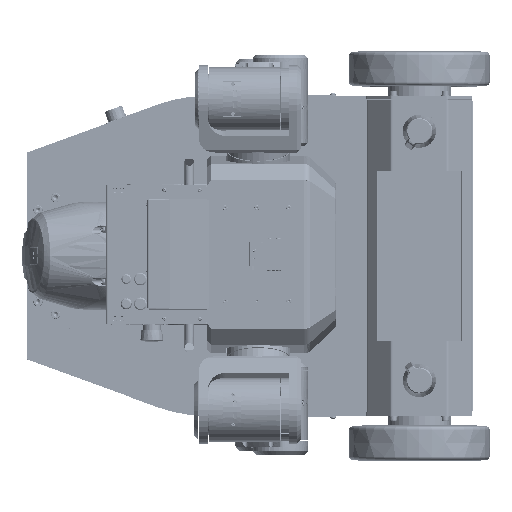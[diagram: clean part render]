
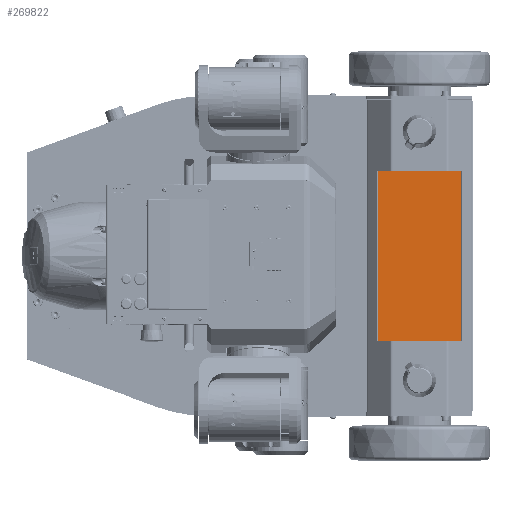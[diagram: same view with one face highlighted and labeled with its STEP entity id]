
A CAD part, top view. The second image highlights one B-rep face of the part: STEP entity #269822.
In plain terms, the highlighted planar face has unit normal (0, 0, 1).
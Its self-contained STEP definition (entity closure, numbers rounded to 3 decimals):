
#12265=PLANE('',#288789);
#22503=FACE_OUTER_BOUND('',#38327,.T.);
#38327=EDGE_LOOP('',(#182383,#182384,#182385,#182386));
#54270=LINE('',#426567,#74852);
#54271=LINE('',#426569,#74853);
#54286=LINE('',#426610,#74868);
#56246=LINE('',#439859,#76828);
#74852=VECTOR('',#315201,1.);
#74853=VECTOR('',#315204,1.);
#74868=VECTOR('',#315239,1.);
#76828=VECTOR('',#322265,1.);
#107991=VERTEX_POINT('',#426531);
#107996=VERTEX_POINT('',#426541);
#107999=VERTEX_POINT('',#426548);
#108000=VERTEX_POINT('',#426551);
#134324=EDGE_CURVE('',#107991,#107999,#54270,.T.);
#134325=EDGE_CURVE('',#107996,#108000,#54271,.T.);
#134346=EDGE_CURVE('',#108000,#107999,#54286,.T.);
#137991=EDGE_CURVE('',#107991,#107996,#56246,.T.);
#182383=ORIENTED_EDGE('',*,*,#134346,.F.);
#182384=ORIENTED_EDGE('',*,*,#134325,.F.);
#182385=ORIENTED_EDGE('',*,*,#137991,.F.);
#182386=ORIENTED_EDGE('',*,*,#134324,.T.);
#269822=ADVANCED_FACE('',(#22503),#12265,.F.);
#288789=AXIS2_PLACEMENT_3D('',#440400,#322403,#322404);
#315201=DIRECTION('',(0.,1.,0.));
#315204=DIRECTION('',(0.,1.,0.));
#315239=DIRECTION('',(1.,0.,0.));
#322265=DIRECTION('',(-1.,0.,0.));
#322403=DIRECTION('center_axis',(0.,0.,
-1.));
#322404=DIRECTION('ref_axis',(0.,-1.,0.));
#426531=CARTESIAN_POINT('',(534.149,-120.5,-89.349));
#426541=CARTESIAN_POINT('',(415.851,-120.5,-89.349));
#426548=CARTESIAN_POINT('',(534.148,120.5,-89.349));
#426551=CARTESIAN_POINT('',(415.852,120.5,-89.349));
#426567=CARTESIAN_POINT('',(534.149,-60.25,-89.349));
#426569=CARTESIAN_POINT('',(415.851,-60.25,-89.349));
#426610=CARTESIAN_POINT('',(474.999,120.5,-89.349));
#439859=CARTESIAN_POINT('',(474.999,-120.5,-89.349));
#440400=CARTESIAN_POINT('Origin',(474.999,0.,
-89.349));
